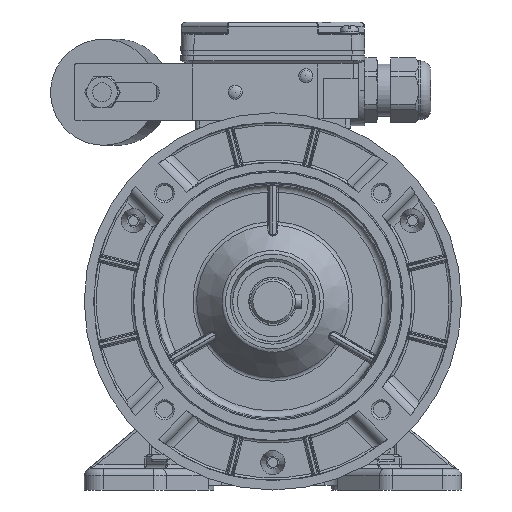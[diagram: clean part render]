
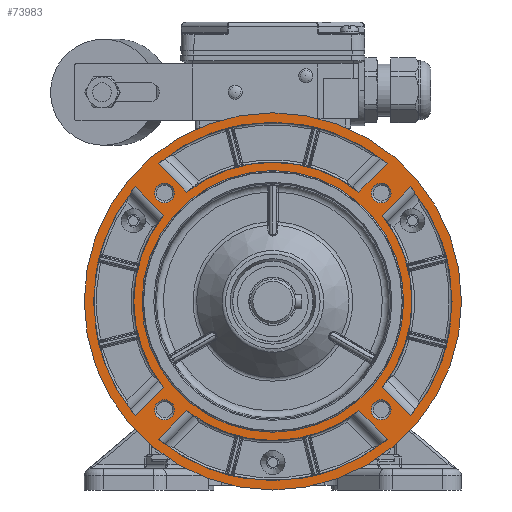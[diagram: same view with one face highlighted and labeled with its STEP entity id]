
A CAD part, left-side view. The second image highlights one B-rep face of the part: STEP entity #73983.
In plain terms, the highlighted planar face has unit normal (-1, 0, 0).
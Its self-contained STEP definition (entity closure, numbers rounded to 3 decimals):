
#4654=CIRCLE('',#77951,80.);
#4670=CIRCLE('',#77989,55.5);
#4671=CIRCLE('',#77990,4.2);
#4672=CIRCLE('',#77991,4.2);
#4673=CIRCLE('',#77992,4.2);
#4674=CIRCLE('',#77993,4.2);
#4675=CIRCLE('',#77994,59.);
#4676=CIRCLE('',#77995,76.);
#4677=CIRCLE('',#77996,59.);
#4678=CIRCLE('',#77997,76.);
#4679=CIRCLE('',#77998,59.);
#4680=CIRCLE('',#77999,76.);
#4681=CIRCLE('',#78000,59.);
#4682=CIRCLE('',#78001,76.);
#12229=ORIENTED_EDGE('',*,*,#25706,.T.);
#12230=ORIENTED_EDGE('',*,*,#25707,.T.);
#12231=ORIENTED_EDGE('',*,*,#25708,.T.);
#12232=ORIENTED_EDGE('',*,*,#25709,.T.);
#12233=ORIENTED_EDGE('',*,*,#25710,.T.);
#12234=ORIENTED_EDGE('',*,*,#25684,.T.);
#12235=ORIENTED_EDGE('',*,*,#25711,.T.);
#12236=ORIENTED_EDGE('',*,*,#25712,.T.);
#12237=ORIENTED_EDGE('',*,*,#25713,.F.);
#12238=ORIENTED_EDGE('',*,*,#25714,.F.);
#12239=ORIENTED_EDGE('',*,*,#25715,.T.);
#12240=ORIENTED_EDGE('',*,*,#25716,.F.);
#12241=ORIENTED_EDGE('',*,*,#25717,.F.);
#12242=ORIENTED_EDGE('',*,*,#25718,.T.);
#12243=ORIENTED_EDGE('',*,*,#25719,.T.);
#12244=ORIENTED_EDGE('',*,*,#25720,.T.);
#12245=ORIENTED_EDGE('',*,*,#25721,.F.);
#12246=ORIENTED_EDGE('',*,*,#25722,.F.);
#12247=ORIENTED_EDGE('',*,*,#25723,.T.);
#12248=ORIENTED_EDGE('',*,*,#25724,.T.);
#12249=ORIENTED_EDGE('',*,*,#25725,.F.);
#12250=ORIENTED_EDGE('',*,*,#25726,.F.);
#25684=EDGE_CURVE('',#32872,#32872,#4654,.T.);
#25706=EDGE_CURVE('',#32878,#32878,#4670,.F.);
#25707=EDGE_CURVE('',#32879,#32879,#4671,.F.);
#25708=EDGE_CURVE('',#32880,#32880,#4672,.F.);
#25709=EDGE_CURVE('',#32881,#32881,#4673,.F.);
#25710=EDGE_CURVE('',#32882,#32882,#4674,.F.);
#25711=EDGE_CURVE('',#32883,#32884,#37469,.T.);
#25712=EDGE_CURVE('',#32884,#32885,#4675,.T.);
#25713=EDGE_CURVE('',#32886,#32885,#37470,.T.);
#25714=EDGE_CURVE('',#32883,#32886,#4676,.T.);
#25715=EDGE_CURVE('',#32887,#32888,#4677,.T.);
#25716=EDGE_CURVE('',#32889,#32888,#37471,.T.);
#25717=EDGE_CURVE('',#32890,#32889,#4678,.T.);
#25718=EDGE_CURVE('',#32890,#32887,#37472,.T.);
#25719=EDGE_CURVE('',#32891,#32892,#37473,.T.);
#25720=EDGE_CURVE('',#32892,#32893,#4679,.T.);
#25721=EDGE_CURVE('',#32894,#32893,#37474,.T.);
#25722=EDGE_CURVE('',#32891,#32894,#4680,.T.);
#25723=EDGE_CURVE('',#32895,#32896,#37475,.T.);
#25724=EDGE_CURVE('',#32896,#32897,#4681,.T.);
#25725=EDGE_CURVE('',#32898,#32897,#37476,.T.);
#25726=EDGE_CURVE('',#32895,#32898,#4682,.T.);
#32872=VERTEX_POINT('',#109466);
#32878=VERTEX_POINT('',#109528);
#32879=VERTEX_POINT('',#109530);
#32880=VERTEX_POINT('',#109532);
#32881=VERTEX_POINT('',#109534);
#32882=VERTEX_POINT('',#109536);
#32883=VERTEX_POINT('',#109538);
#32884=VERTEX_POINT('',#109539);
#32885=VERTEX_POINT('',#109541);
#32886=VERTEX_POINT('',#109543);
#32887=VERTEX_POINT('',#109546);
#32888=VERTEX_POINT('',#109547);
#32889=VERTEX_POINT('',#109549);
#32890=VERTEX_POINT('',#109551);
#32891=VERTEX_POINT('',#109554);
#32892=VERTEX_POINT('',#109555);
#32893=VERTEX_POINT('',#109557);
#32894=VERTEX_POINT('',#109559);
#32895=VERTEX_POINT('',#109562);
#32896=VERTEX_POINT('',#109563);
#32897=VERTEX_POINT('',#109565);
#32898=VERTEX_POINT('',#109567);
#37469=LINE('',#109537,#41189);
#37470=LINE('',#109542,#41190);
#37471=LINE('',#109548,#41191);
#37472=LINE('',#109552,#41192);
#37473=LINE('',#109553,#41193);
#37474=LINE('',#109558,#41194);
#37475=LINE('',#109561,#41195);
#37476=LINE('',#109566,#41196);
#41189=VECTOR('',#86691,1000.);
#41190=VECTOR('',#86694,1000.);
#41191=VECTOR('',#86699,1000.);
#41192=VECTOR('',#86702,1000.);
#41193=VECTOR('',#86703,1000.);
#41194=VECTOR('',#86706,1000.);
#41195=VECTOR('',#86709,1000.);
#41196=VECTOR('',#86712,1000.);
#44946=EDGE_LOOP('',(#12229));
#44947=EDGE_LOOP('',(#12230));
#44948=EDGE_LOOP('',(#12231));
#44949=EDGE_LOOP('',(#12232));
#44950=EDGE_LOOP('',(#12233));
#44951=EDGE_LOOP('',(#12234));
#44952=EDGE_LOOP('',(#12235,#12236,#12237,#12238));
#44953=EDGE_LOOP('',(#12239,#12240,#12241,#12242));
#44954=EDGE_LOOP('',(#12243,#12244,#12245,#12246));
#44955=EDGE_LOOP('',(#12247,#12248,#12249,#12250));
#48577=FACE_BOUND('',#44946,.T.);
#48578=FACE_BOUND('',#44947,.T.);
#48579=FACE_BOUND('',#44948,.T.);
#48580=FACE_BOUND('',#44949,.T.);
#48581=FACE_BOUND('',#44950,.T.);
#48582=FACE_BOUND('',#44951,.T.);
#48583=FACE_BOUND('',#44952,.T.);
#48584=FACE_BOUND('',#44953,.T.);
#48585=FACE_BOUND('',#44954,.T.);
#48586=FACE_BOUND('',#44955,.T.);
#51480=PLANE('',#77988);
#73983=ADVANCED_FACE('',(#48577,#48578,#48579,#48580,#48581,#48582,#48583,
#48584,#48585,#48586),#51480,.T.);
#77951=AXIS2_PLACEMENT_3D('',#109465,#86601,#86602);
#77988=AXIS2_PLACEMENT_3D('',#109526,#86679,#86680);
#77989=AXIS2_PLACEMENT_3D('',#109527,#86681,#86682);
#77990=AXIS2_PLACEMENT_3D('',#109529,#86683,#86684);
#77991=AXIS2_PLACEMENT_3D('',#109531,#86685,#86686);
#77992=AXIS2_PLACEMENT_3D('',#109533,#86687,#86688);
#77993=AXIS2_PLACEMENT_3D('',#109535,#86689,#86690);
#77994=AXIS2_PLACEMENT_3D('',#109540,#86692,#86693);
#77995=AXIS2_PLACEMENT_3D('',#109544,#86695,#86696);
#77996=AXIS2_PLACEMENT_3D('',#109545,#86697,#86698);
#77997=AXIS2_PLACEMENT_3D('',#109550,#86700,#86701);
#77998=AXIS2_PLACEMENT_3D('',#109556,#86704,#86705);
#77999=AXIS2_PLACEMENT_3D('',#109560,#86707,#86708);
#78000=AXIS2_PLACEMENT_3D('',#109564,#86710,#86711);
#78001=AXIS2_PLACEMENT_3D('',#109568,#86713,#86714);
#86601=DIRECTION('',(-1.,0.,0.));
#86602=DIRECTION('',(0.,1.,0.));
#86679=DIRECTION('',(-1.,0.,0.));
#86680=DIRECTION('',(0.,-1.,0.));
#86681=DIRECTION('',(-1.,0.,0.));
#86682=DIRECTION('',(0.,-1.,0.));
#86683=DIRECTION('',(-1.,0.,0.));
#86684=DIRECTION('',(0.,-1.,0.));
#86685=DIRECTION('',(-1.,0.,0.));
#86686=DIRECTION('',(0.,-1.,0.));
#86687=DIRECTION('',(-1.,0.,0.));
#86688=DIRECTION('',(0.,-1.,0.));
#86689=DIRECTION('',(-1.,0.,0.));
#86690=DIRECTION('',(0.,-1.,0.));
#86691=DIRECTION('',(0.,0.707,0.707));
#86692=DIRECTION('',(-1.,0.,0.));
#86693=DIRECTION('',(0.,0.,1.));
#86694=DIRECTION('',(0.,0.707,-0.707));
#86695=DIRECTION('',(-1.,0.,0.));
#86696=DIRECTION('',(0.,0.,1.));
#86697=DIRECTION('',(-1.,0.,0.));
#86698=DIRECTION('',(0.,0.,1.));
#86699=DIRECTION('',(0.,0.707,0.707));
#86700=DIRECTION('',(-1.,0.,0.));
#86701=DIRECTION('',(0.,0.,1.));
#86702=DIRECTION('',(0.,-0.707,0.707));
#86703=DIRECTION('',(0.,0.707,-0.707));
#86704=DIRECTION('',(-1.,0.,0.));
#86705=DIRECTION('',(0.,0.,1.));
#86706=DIRECTION('',(0.,-0.707,-0.707));
#86707=DIRECTION('',(-1.,0.,0.));
#86708=DIRECTION('',(0.,0.,1.));
#86709=DIRECTION('',(0.,-0.707,-0.707));
#86710=DIRECTION('',(-1.,0.,0.));
#86711=DIRECTION('',(0.,0.,1.));
#86712=DIRECTION('',(0.,-0.707,0.707));
#86713=DIRECTION('',(-1.,0.,0.));
#86714=DIRECTION('',(0.,0.,1.));
#109465=CARTESIAN_POINT('',(-44.8,0.,0.));
#109466=CARTESIAN_POINT('',(-44.8,80.,0.));
#109526=CARTESIAN_POINT('',(-44.8,0.,0.));
#109527=CARTESIAN_POINT('',(-44.8,0.,0.));
#109528=CARTESIAN_POINT('',(-44.8,-55.5,0.));
#109529=CARTESIAN_POINT('',(-44.8,-45.962,-45.962));
#109530=CARTESIAN_POINT('',(-44.8,-50.162,-45.962));
#109531=CARTESIAN_POINT('',(-44.8,-45.962,45.962));
#109532=CARTESIAN_POINT('',(-44.8,-50.162,45.962));
#109533=CARTESIAN_POINT('',(-44.8,45.962,45.962));
#109534=CARTESIAN_POINT('',(-44.8,41.762,45.962));
#109535=CARTESIAN_POINT('',(-44.8,45.962,-45.962));
#109536=CARTESIAN_POINT('',(-44.8,41.762,-45.962));
#109537=CARTESIAN_POINT('',(-44.8,-70.057,-60.157));
#109538=CARTESIAN_POINT('',(-44.8,-58.461,-48.562));
#109539=CARTESIAN_POINT('',(-44.8,-46.374,-36.475));
#109540=CARTESIAN_POINT('',(-44.8,0.,0.));
#109541=CARTESIAN_POINT('',(-44.8,-46.374,36.475));
#109542=CARTESIAN_POINT('',(-44.8,-70.057,60.157));
#109543=CARTESIAN_POINT('',(-44.8,-58.461,48.562));
#109544=CARTESIAN_POINT('',(-44.8,0.,0.));
#109545=CARTESIAN_POINT('',(-44.8,0.,0.));
#109546=CARTESIAN_POINT('',(-44.8,36.475,-46.374));
#109547=CARTESIAN_POINT('',(-44.8,-36.475,-46.374));
#109548=CARTESIAN_POINT('',(-44.8,-60.157,-70.057));
#109549=CARTESIAN_POINT('',(-44.8,-48.562,-58.461));
#109550=CARTESIAN_POINT('',(-44.8,0.,0.));
#109551=CARTESIAN_POINT('',(-44.8,48.562,-58.461));
#109552=CARTESIAN_POINT('',(-44.8,60.157,-70.057));
#109553=CARTESIAN_POINT('',(-44.8,-60.157,70.057));
#109554=CARTESIAN_POINT('',(-44.8,-48.562,58.461));
#109555=CARTESIAN_POINT('',(-44.8,-36.475,46.374));
#109556=CARTESIAN_POINT('',(-44.8,0.,0.));
#109557=CARTESIAN_POINT('',(-44.8,36.475,46.374));
#109558=CARTESIAN_POINT('',(-44.8,60.157,70.057));
#109559=CARTESIAN_POINT('',(-44.8,48.562,58.461));
#109560=CARTESIAN_POINT('',(-44.8,0.,0.));
#109561=CARTESIAN_POINT('',(-44.8,70.057,60.157));
#109562=CARTESIAN_POINT('',(-44.8,58.461,48.562));
#109563=CARTESIAN_POINT('',(-44.8,46.374,36.475));
#109564=CARTESIAN_POINT('',(-44.8,0.,0.));
#109565=CARTESIAN_POINT('',(-44.8,46.374,-36.475));
#109566=CARTESIAN_POINT('',(-44.8,70.057,-60.157));
#109567=CARTESIAN_POINT('',(-44.8,58.461,-48.562));
#109568=CARTESIAN_POINT('',(-44.8,0.,0.));
